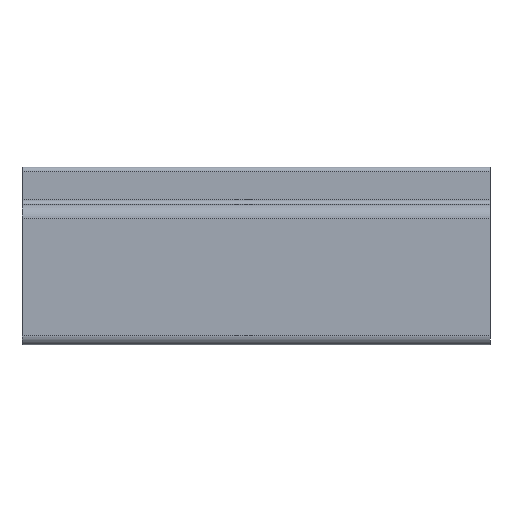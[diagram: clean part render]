
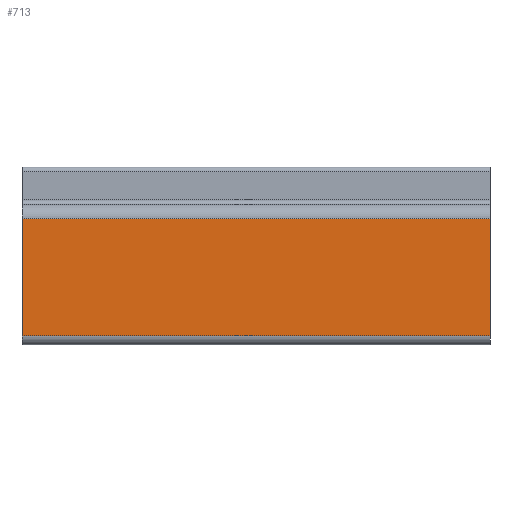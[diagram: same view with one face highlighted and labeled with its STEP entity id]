
A CAD part, front view. The second image highlights one B-rep face of the part: STEP entity #713.
In plain terms, the highlighted planar face has unit normal (0, -1, 0).
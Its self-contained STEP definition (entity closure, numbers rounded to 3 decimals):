
#64 = VERTEX_POINT ( 'NONE', #1139 ) ;
#80 = DIRECTION ( 'NONE',  ( 0., 0., 1. ) ) ;
#206 = CARTESIAN_POINT ( 'NONE',  ( 100., 0., 2. ) ) ;
#263 = LINE ( 'NONE', #206, #885 ) ;
#394 = AXIS2_PLACEMENT_3D ( 'NONE', #1600, #839, #80 ) ;
#396 = DIRECTION ( 'NONE',  ( 0., 0., -1. ) ) ;
#503 = ORIENTED_EDGE ( 'NONE', *, *, #1160, .F. ) ;
#522 = EDGE_LOOP ( 'NONE', ( #1281, #1367, #503, #1390 ) ) ;
#582 = CARTESIAN_POINT ( 'NONE',  ( 100., 0., 2. ) ) ;
#699 = EDGE_CURVE ( 'NONE', #64, #1574, #263, .T. ) ;
#713 = ADVANCED_FACE ( 'NONE', ( #1485 ), #1338, .F. ) ;
#717 = CARTESIAN_POINT ( 'NONE',  ( 0., 0., 27. ) ) ;
#724 = EDGE_CURVE ( 'NONE', #1487, #1421, #1196, .T. ) ;
#787 = CARTESIAN_POINT ( 'NONE',  ( 0., 0., 2. ) ) ;
#818 = VECTOR ( 'NONE', #1219, 1000. ) ;
#820 = CARTESIAN_POINT ( 'NONE',  ( 0., 0., 2. ) ) ;
#839 = DIRECTION ( 'NONE',  ( 0., 1., 0. ) ) ;
#863 = LINE ( 'NONE', #582, #1492 ) ;
#882 = VECTOR ( 'NONE', #396, 1000. ) ;
#885 = VECTOR ( 'NONE', #1080, 1000. ) ;
#896 = EDGE_CURVE ( 'NONE', #1421, #1574, #1227, .T. ) ;
#1080 = DIRECTION ( 'NONE',  ( -1., 0., 0. ) ) ;
#1139 = CARTESIAN_POINT ( 'NONE',  ( 100., 0., 2. ) ) ;
#1160 = EDGE_CURVE ( 'NONE', #1487, #64, #863, .T. ) ;
#1196 = LINE ( 'NONE', #1462, #818 ) ;
#1219 = DIRECTION ( 'NONE',  ( -1., 0., 0. ) ) ;
#1227 = LINE ( 'NONE', #787, #882 ) ;
#1281 = ORIENTED_EDGE ( 'NONE', *, *, #896, .T. ) ;
#1338 = PLANE ( 'NONE',  #394 ) ;
#1367 = ORIENTED_EDGE ( 'NONE', *, *, #699, .F. ) ;
#1390 = ORIENTED_EDGE ( 'NONE', *, *, #724, .T. ) ;
#1418 = CARTESIAN_POINT ( 'NONE',  ( 100., 0., 27. ) ) ;
#1421 = VERTEX_POINT ( 'NONE', #717 ) ;
#1462 = CARTESIAN_POINT ( 'NONE',  ( 100., 0., 27. ) ) ;
#1485 = FACE_OUTER_BOUND ( 'NONE', #522, .T. ) ;
#1487 = VERTEX_POINT ( 'NONE', #1418 ) ;
#1492 = VECTOR ( 'NONE', #1581, 1000. ) ;
#1574 = VERTEX_POINT ( 'NONE', #820 ) ;
#1581 = DIRECTION ( 'NONE',  ( 0., 0., -1. ) ) ;
#1600 = CARTESIAN_POINT ( 'NONE',  ( 100., 0., 2. ) ) ;
